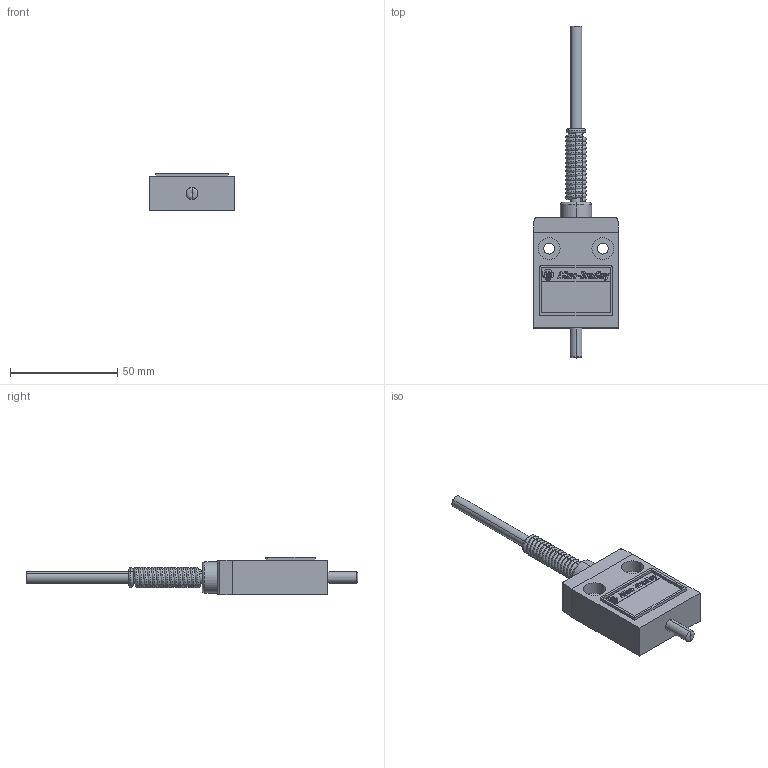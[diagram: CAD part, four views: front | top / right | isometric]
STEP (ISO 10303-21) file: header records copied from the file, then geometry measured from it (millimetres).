
FILE_DESCRIPTION (( 'STEP AP214' ), '1' );
FILE_NAME ('802B-CSDCXSLC3.STEP', '2009-08-12T07:34:06', ( ' ' ), ( ' ' ), 'SwSTEP 2.0', 'SolidWorks 2007', '' );
FILE_SCHEMA (( 'AUTOMOTIVE_DESIGN' ));
Length unit declared in the file: millimetre
Products named in the file (1): 802B-CSDCXSLC3
Bounding box: 40.07 x 154.91 x 17.4 mm (x, y, z)
Volume: 36142.9 mm3; surface area: 13899.8 mm2
Topology: 24 solids, 24 shells, 754 faces, 2008 edges, 1305 vertices
Faces by surface type: plane 544, bspline 184, cylinder 22, torus 4
Entity records: 35567 total; most frequent: CARTESIAN_POINT 8995, ORIENTED_EDGE 4012, DIRECTION 3302, EDGE_CURVE 2006, LINE 1492, VECTOR 1492, VERTEX_POINT 1305, AXIS2_PLACEMENT_3D 905
